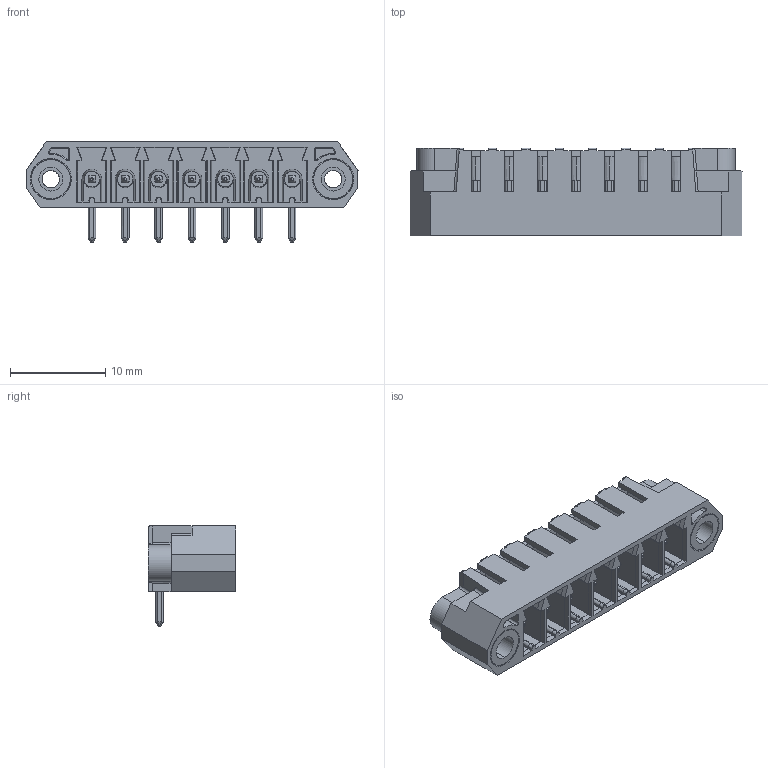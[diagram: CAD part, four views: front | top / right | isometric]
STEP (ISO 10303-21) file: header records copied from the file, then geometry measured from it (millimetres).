
FILE_DESCRIPTION (( 'STEP AP214' ), '1' );
FILE_NAME ('110-M-215-07.STEP', '2007-12-02T17:38:55', ( ' ' ), ( '' ), 'SwSTEP 2.0', 'SolidWorks 2007', '' );
FILE_SCHEMA (( 'AUTOMOTIVE_DESIGN' ));
Length unit declared in the file: millimetre
Products named in the file (1): 110-M-215-07
Bounding box: 34.8 x 9.2 x 10.5 mm (x, y, z)
Volume: 1012 mm3; surface area: 2951.4 mm2
Topology: 1 solids, 1 shells, 1486 faces, 4352 edges, 2810 vertices
Faces by surface type: plane 942, cylinder 399, bspline 76, cone 69
Entity records: 55080 total; most frequent: CARTESIAN_POINT 19370, ORIENTED_EDGE 8648, DIRECTION 5581, EDGE_CURVE 4324, VERTEX_POINT 2810, VECTOR 2467, LINE 2467, B_SPLINE_CURVE_WITH_KNOTS 1661
